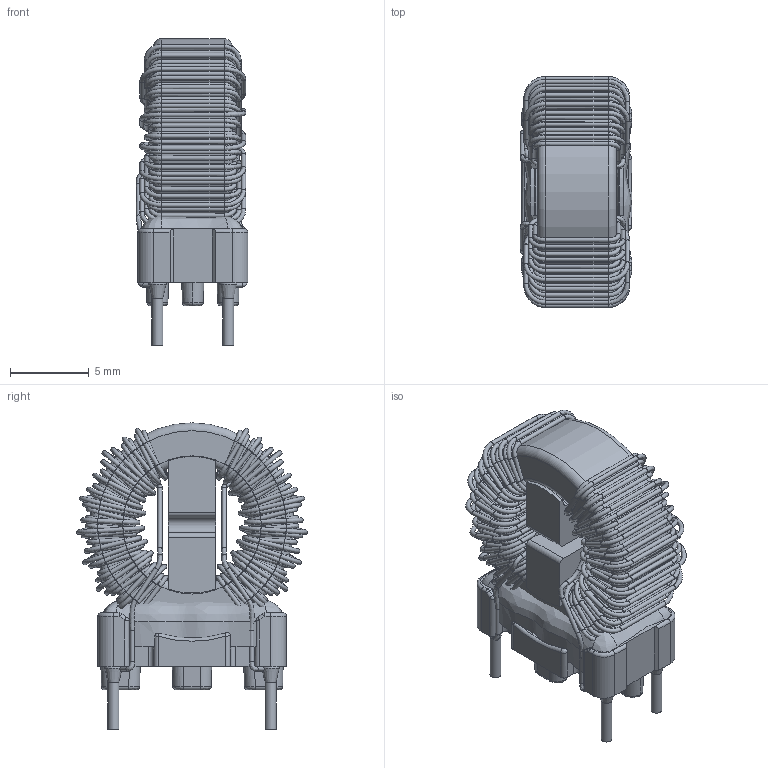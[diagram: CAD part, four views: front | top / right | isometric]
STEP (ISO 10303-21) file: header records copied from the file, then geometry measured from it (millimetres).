
FILE_DESCRIPTION(/* description */ ('Unknown'),/* implementation_level */ '2;1');
FILE_NAME(/* name */ 'L_Wurth_WE-CMB-XS_L15.5W8H18',/* time_stamp */ '2024-10-11T15:40:48+08:00',/* author */ ('Unknown'),/* organization */ ('Unknown'),/* preprocessor_version */ 'ST-DEVELOPER v16.7',/* originating_system */ 'Solid Edge',/* authorisation */ 'Unknown');
FILE_SCHEMA (('AUTOMOTIVE_DESIGN {1 0 10303 214 3 1 1}'));
Length unit declared in the file: millimetre
Products named in the file (2): L_Wurth_WE-CMB-XS_L15.5W8H18
Assembly tree (1 placements, depth 2):
  L_Wurth_WE-CMB-XS_L15.5W8H18
    L_Wurth_WE-CMB-XS_L15.5W8H18
Bounding box: 7.1 x 14.71 x 19.5 mm (x, y, z)
Volume: 957.2 mm3; surface area: 2695.4 mm2
Topology: 14 solids, 18 shells, 1148 faces, 2492 edges, 1377 vertices
Faces by surface type: cylinder 519, bspline 268, torus 232, plane 117, cone 12
Full cylindrical faces by diameter (mm): 0.28 x400, 0.7 x12, 7.8 x1, 13 x1
Entity records: 63514 total; most frequent: CARTESIAN_POINT 36106, DIRECTION 3963, ORIENTED_EDGE 3124, EDGE_LOOP 1996, FACE_BOUND 1996, AXIS2_PLACEMENT_3D 1842, EDGE_CURVE 1562, VERTEX_POINT 1290
